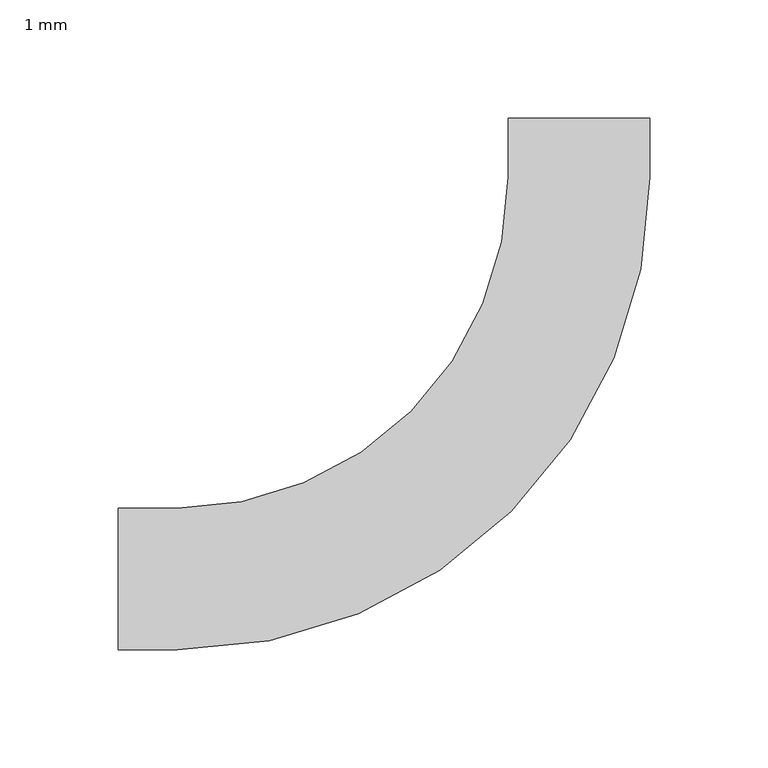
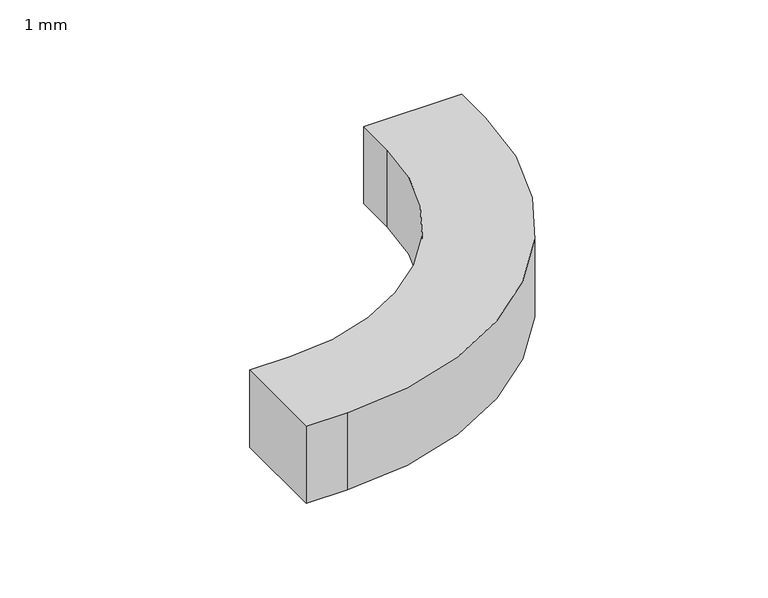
"""IFC4 building model written with IfcOpenShell, lengths in millimetres: cable carrier fitting geometry, BAKS_Łuk_koryta_pionowy E90 (R140)w : 1 mm."""

from ifc_helpers import new_model, si_unit, point, frame, frame_2d, origin, place, context, project, spatial, polyline, circle_curve, trimmed, segment, composite_curve, outline, extrude, source, transform, mapped, element, save


def cable_carrier_fitting_1_mm_2a07449b(model_context):
    return source(origin(), model_context, "Body", "SweptSolid", [
        extrude(outline(composite_curve([segment(polyline([(-195.0, -30.0), (-195.0, 30.0), (-170.0, 30.0)]), True, "CONTINUOUS"), segment(trimmed(circle_curve(frame_2d((-170.0, 170.0)), 140.0), [point((-170.0, 30.0))], [point((-30.0, 170.0))], True, "CARTESIAN"), True, "CONTINUOUS"), segment(polyline([(-30.0, 170.0), (-30.0, 195.0), (30.0, 195.0), (30.0, 170.0)]), True, "CONTINUOUS"), segment(trimmed(circle_curve(frame_2d((-170.0, 170.0)), 200.0), [point((30.0, 170.0))], [point((-170.0, -30.0))], False, "CARTESIAN"), True, "CONTINUOUS"), segment(polyline([(-170.0, -30.0), (-195.0, -30.0)]), True, "CONTINUOUS")], self_intersect=False)), frame((0.0, 0.0, -25.0), z_axis=(0.0, 0.0, 1.0), x_axis=(1.0, 0.0, 0.0)), (0.0, 0.0, 1.0), 50.0),
    ])


if __name__ == "__main__":
    model = new_model("IFC4")
    model_context = context("Model", 3, world=origin())
    ifc_project = project(units=[si_unit("LENGTHUNIT", "METRE", prefix="MILLI")], contexts=[model_context])
    site = spatial("IfcSite", under=ifc_project)
    building = spatial("IfcBuilding", under=site)
    placement = place(None, origin())
    cable_carrier_fitting_1_mm_shape = cable_carrier_fitting_1_mm_2a07449b(model_context)
    element("IfcCableCarrierFitting", 1, ObjectType="BAKS_Łuk_koryta_pionowy E90 (R140)w : 1 mm", at=placement, inside=building, context=model_context, shape_type="MappedRepresentation", body=[
        mapped(cable_carrier_fitting_1_mm_shape, transform((0.0, 0.0, 0.0), x_axis=(1.0, 0.0, 0.0), y_axis=(0.0, 1.0, 0.0), z_axis=(0.0, 0.0, 1.0))),
    ])
    save(model, "model.ifc")
